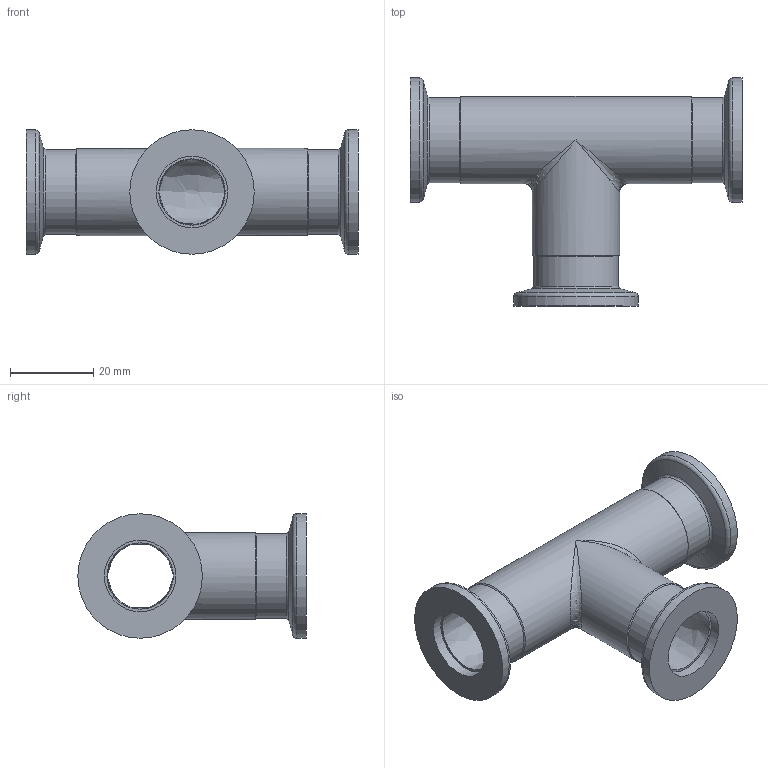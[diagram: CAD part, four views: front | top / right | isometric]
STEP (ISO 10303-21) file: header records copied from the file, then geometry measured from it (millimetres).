
FILE_DESCRIPTION((''),'2;1');
FILE_NAME('W:\M18406.stp','2006-08-30T12:32:02',('KAA'),(''),'Autodesk Inventor 10','Autodesk Inventor 10','');
FILE_SCHEMA(('CONFIG_CONTROL_DESIGN'));
Length unit declared in the file: millimetre
Products named in the file (1): M211-262
Bounding box: 80 x 55 x 30 mm (x, y, z)
Volume: 18956.7 mm3; surface area: 15144.3 mm2
Topology: 1 solids, 1 shells, 33 faces, 74 edges, 41 vertices
Faces by surface type: bspline 15, cylinder 8, cone 4, plane 4, torus 2
Full cylindrical faces by diameter (mm): 17.2 x2, 20.5 x2, 21 x2, 30 x2
Entity records: 1472 total; most frequent: CARTESIAN_POINT 843, DIRECTION 110, ORIENTED_EDGE 72, EDGE_LOOP 66, AXIS2_PLACEMENT_3D 55, EDGE_CURVE 36, VERTEX_POINT 34, FACE_OUTER_BOUND 33
